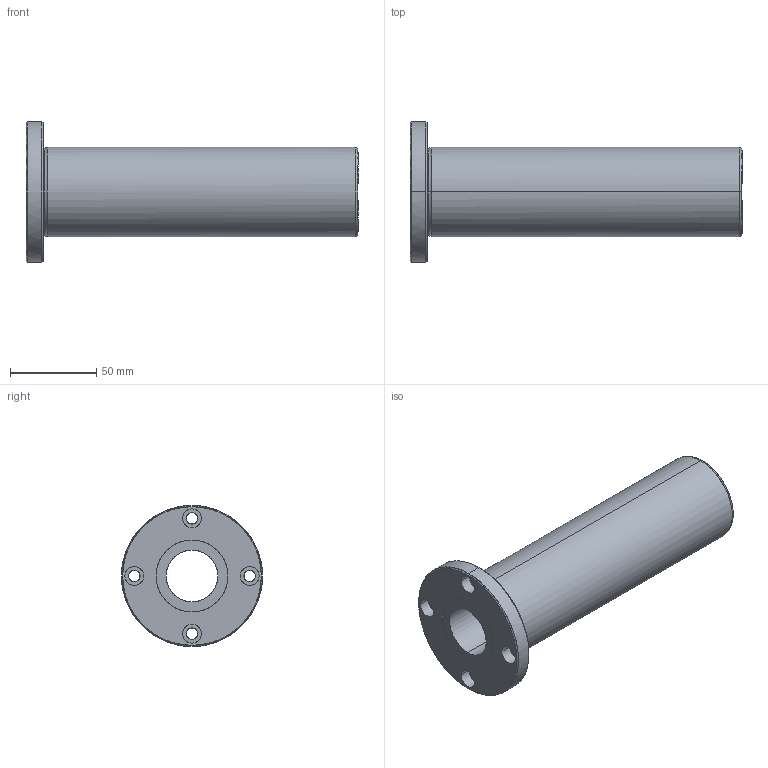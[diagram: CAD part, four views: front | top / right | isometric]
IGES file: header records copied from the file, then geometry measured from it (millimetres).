
Global section: file name: No Iges File Name specified; native system: AutoDesk Inventor R10; preprocessor: AutoDesk Inventor Iges Exporter R10; author: No Author specified; organization: No Organization specified; date: 20101216.172924; units: millimetre
Bounding box: 193 x 82 x 82 mm (x, y, z)
Surface area: 60492.7 mm2 (no closed solid volume)
Topology: 0 solids, 0 shells, 45 faces, 320 edges, 320 vertices
Faces by surface type: bspline 45
